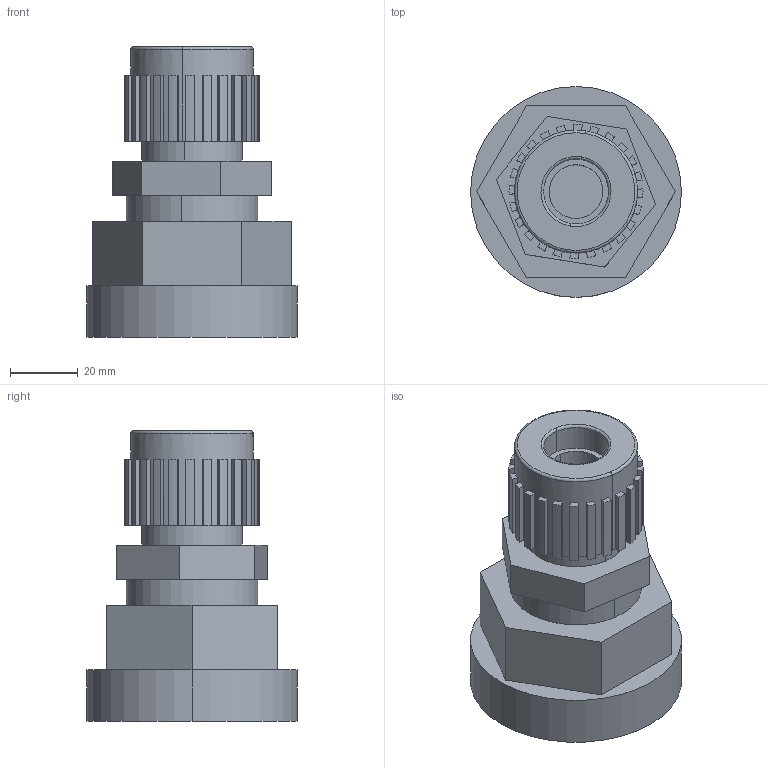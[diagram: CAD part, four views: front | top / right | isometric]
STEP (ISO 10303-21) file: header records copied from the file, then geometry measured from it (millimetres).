
FILE_DESCRIPTION (( 'STEP AP214' ), '1' );
FILE_NAME ('12-s-300-top-out.STEP', '2012-12-03T21:37:03', ( '' ), ( '' ), 'SwSTEP 2.0', 'SolidWorks 2012', '' );
FILE_SCHEMA (( 'AUTOMOTIVE_DESIGN' ));
Length unit declared in the file: inch
Products named in the file (1): 12-s-300-top-out
Bounding box: 62.33 x 62.33 x 85.81 mm (x, y, z)
Volume: 141548.2 mm3; surface area: 23159.5 mm2
Topology: 1 solids, 1 shells, 133 faces, 368 edges, 244 vertices
Faces by surface type: plane 93, cylinder 36, torus 4
Entity records: 4357 total; most frequent: DIRECTION 764, CARTESIAN_POINT 746, ORIENTED_EDGE 736, EDGE_CURVE 368, AXIS2_PLACEMENT_3D 262, VERTEX_POINT 244, LINE 240, VECTOR 240
